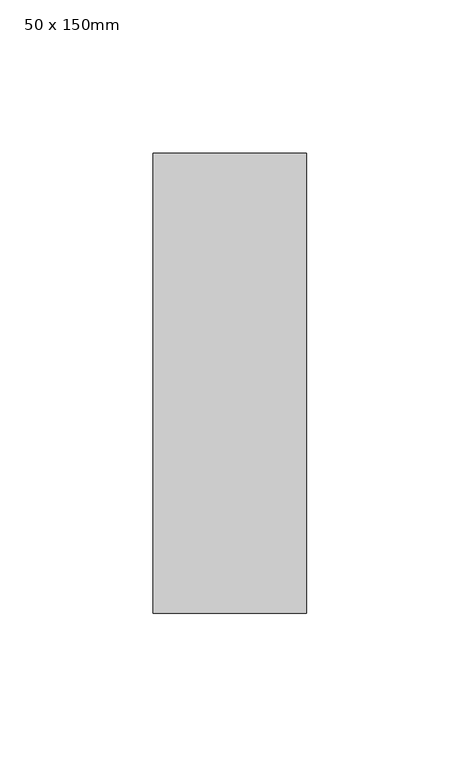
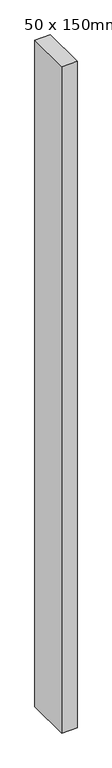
"""IFC4 building model written with IfcOpenShell, lengths in millimetres: member geometry, Прямоугольный импост : 50 x 150mm."""

from ifc_helpers import new_model, si_unit, frame, origin, place, context, project, spatial, polyline, outline, extrude, source, transform, mapped, element, save


def member_50_x_150mm_5edc6ec0(model_context):
    return source(origin(), model_context, "Body", "SweptSolid", [
        extrude(outline(polyline([(0.0, 75.0), (0.0, -75.0), (-50.0, -75.0), (-50.0, 75.0), (0.0, 75.0)])), frame((0.0, 0.0, -2284.593449), z_axis=(0.0, 0.0, 1.0), x_axis=(1.0, 0.0, 0.0)), (0.0, 0.0, 1.0), 2284.593449),
    ])


if __name__ == "__main__":
    model = new_model("IFC4")
    model_context = context("Model", 3, world=origin())
    ifc_project = project(units=[si_unit("LENGTHUNIT", "METRE", prefix="MILLI")], contexts=[model_context])
    site = spatial("IfcSite", under=ifc_project)
    building = spatial("IfcBuilding", under=site)
    placement = place(None, origin())
    member_50_x_150mm_shape = member_50_x_150mm_5edc6ec0(model_context)
    element("IfcMember", 1, ObjectType="Прямоугольный импост : 50 x 150mm", at=placement, inside=building, context=model_context, shape_type="MappedRepresentation", body=[
        mapped(member_50_x_150mm_shape, transform((0.0, 0.0, 0.0), x_axis=(1.0, 0.0, 0.0), y_axis=(0.0, 1.0, 0.0), z_axis=(0.0, 0.0, 1.0))),
    ])
    save(model, "model.ifc")
